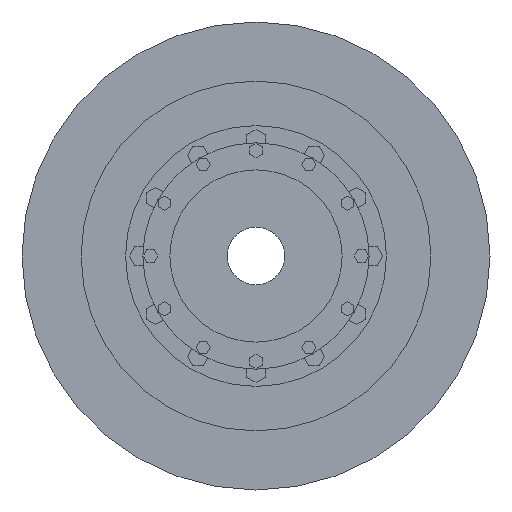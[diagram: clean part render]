
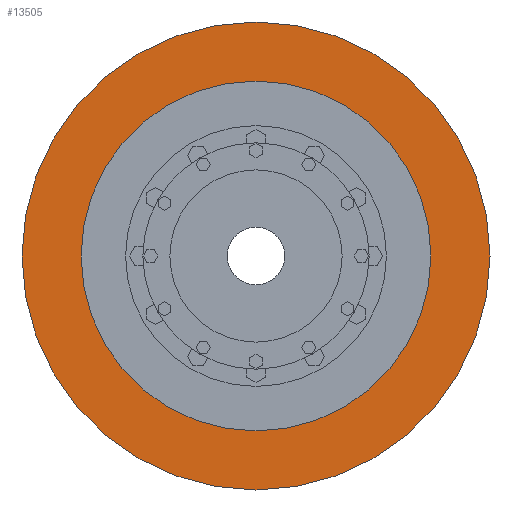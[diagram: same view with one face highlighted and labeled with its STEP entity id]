
A CAD part, left-side view. The second image highlights one B-rep face of the part: STEP entity #13505.
In plain terms, the highlighted planar face has unit normal (-1, 0, 0).
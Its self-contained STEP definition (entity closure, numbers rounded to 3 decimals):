
#13302=CARTESIAN_POINT('',(-46.,0.,0.));
#13303=DIRECTION('',(-1.,0.,0.));
#13304=DIRECTION('',(0.,1.,0.));
#13305=AXIS2_PLACEMENT_3D('',#13302,#13303,#13304);
#13307=CARTESIAN_POINT('',(-46.,0.,0.));
#13308=DIRECTION('',(1.,0.,0.));
#13309=DIRECTION('',(0.,1.,0.));
#13310=AXIS2_PLACEMENT_3D('',#13307,#13308,#13309);
#13312=CARTESIAN_POINT('',(-46.,0.,0.));
#13313=DIRECTION('',(1.,0.,0.));
#13314=DIRECTION('',(0.,1.,0.));
#13315=AXIS2_PLACEMENT_3D('',#13312,#13313,#13314);
#13325=CARTESIAN_POINT('',(-46.,0.,0.));
#13326=DIRECTION('',(-1.,0.,0.));
#13327=DIRECTION('',(0.,1.,0.));
#13328=AXIS2_PLACEMENT_3D('',#13325,#13326,#13327);
#13348=CARTESIAN_POINT('',(-46.,228.,0.));
#13350=VERTEX_POINT('',#13348);
#13360=CARTESIAN_POINT('',(-46.,-228.,0.));
#13362=VERTEX_POINT('',#13360);
#13365=CARTESIAN_POINT('',(-46.,305.,0.));
#13367=VERTEX_POINT('',#13365);
#13369=CARTESIAN_POINT('',(-46.,-305.,0.));
#13371=VERTEX_POINT('',#13369);
#13490=CARTESIAN_POINT('',(-46.,0.,0.));
#13491=DIRECTION('',(1.,0.,0.));
#13492=DIRECTION('',(0.,-1.,0.));
#13493=AXIS2_PLACEMENT_3D('',#13490,#13491,#13492);
#13494=PLANE('',#13493);
#13495=ORIENTED_EDGE('',*,*,#13483,.F.);
#13496=ORIENTED_EDGE('',*,*,#13472,.T.);
#13497=EDGE_LOOP('',(#13495,#13496));
#13498=FACE_OUTER_BOUND('',#13497,.F.);
#13500=ORIENTED_EDGE('',*,*,#13499,.F.);
#13502=ORIENTED_EDGE('',*,*,#13501,.T.);
#13503=EDGE_LOOP('',(#13500,#13502));
#13504=FACE_BOUND('',#13503,.F.);
#13505=ADVANCED_FACE('',(#13498,#13504),#13494,.F.);
#13306=CIRCLE('',#13305,305.);
#13311=CIRCLE('',#13310,305.);
#13316=CIRCLE('',#13315,228.);
#13329=CIRCLE('',#13328,228.);
#13472=EDGE_CURVE('',#13367,#13371,#13311,.T.);
#13483=EDGE_CURVE('',#13367,#13371,#13306,.T.);
#13499=EDGE_CURVE('',#13350,#13362,#13316,.T.);
#13501=EDGE_CURVE('',#13350,#13362,#13329,.T.);
